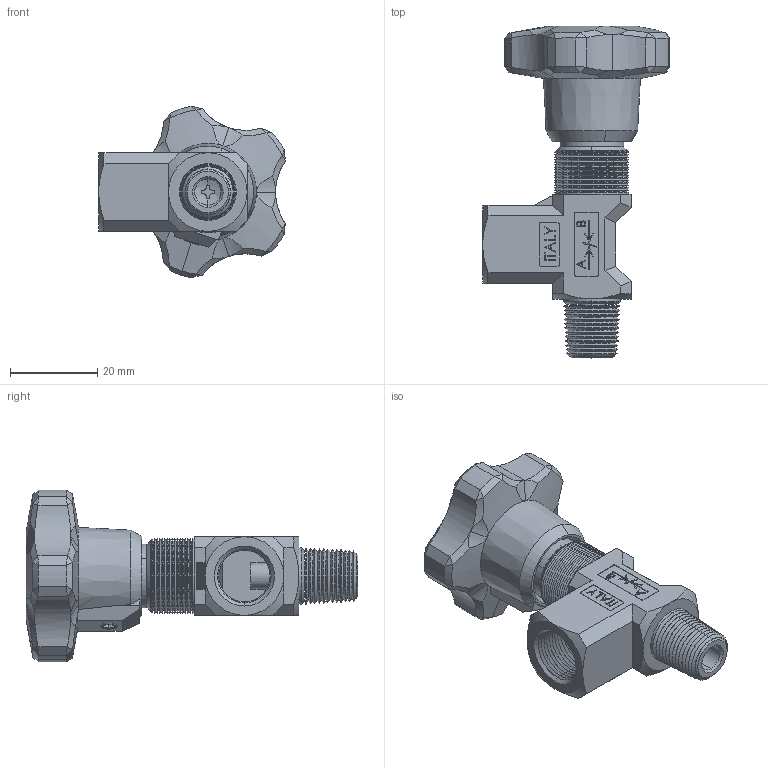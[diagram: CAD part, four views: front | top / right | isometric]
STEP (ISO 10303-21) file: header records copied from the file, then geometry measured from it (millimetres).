
FILE_DESCRIPTION (( 'STEP AP214' ), '1' );
FILE_NAME ('252-2-14 VOLANTINO ABS M-F.STEP', '2015-05-15T15:41:47', ( '' ), ( '' ), 'SwSTEP 2.0', 'SolidWorks 2014', '' );
FILE_SCHEMA (( 'AUTOMOTIVE_DESIGN' ));
Length unit declared in the file: millimetre
Products named in the file (1): 252-2-14 VOLANTINO ABS M-F
Bounding box: 42.73 x 76 x 39.25 mm (x, y, z)
Surface area: 10636.5 mm2 (no closed solid volume)
Topology: 0 solids, 13 shells, 602 faces, 1672 edges, 1042 vertices
Faces by surface type: plane 267, cone 216, cylinder 73, bspline 44, sphere 2
Entity records: 30558 total; most frequent: CARTESIAN_POINT 9109, ORIENTED_EDGE 2975, DIRECTION 2938, EDGE_CURVE 1672, LINE 1052, VECTOR 1052, VERTEX_POINT 1042, AXIS2_PLACEMENT_3D 943
